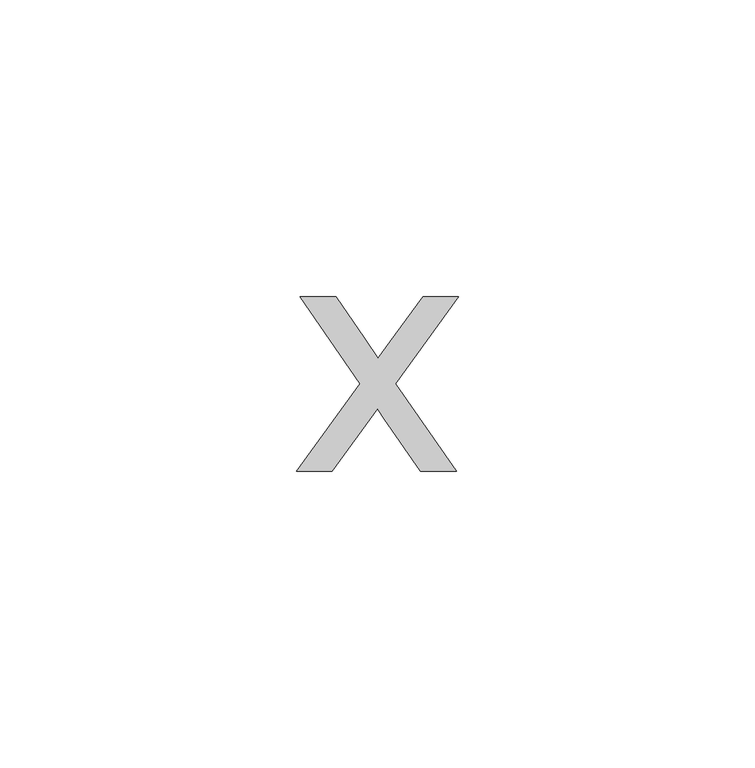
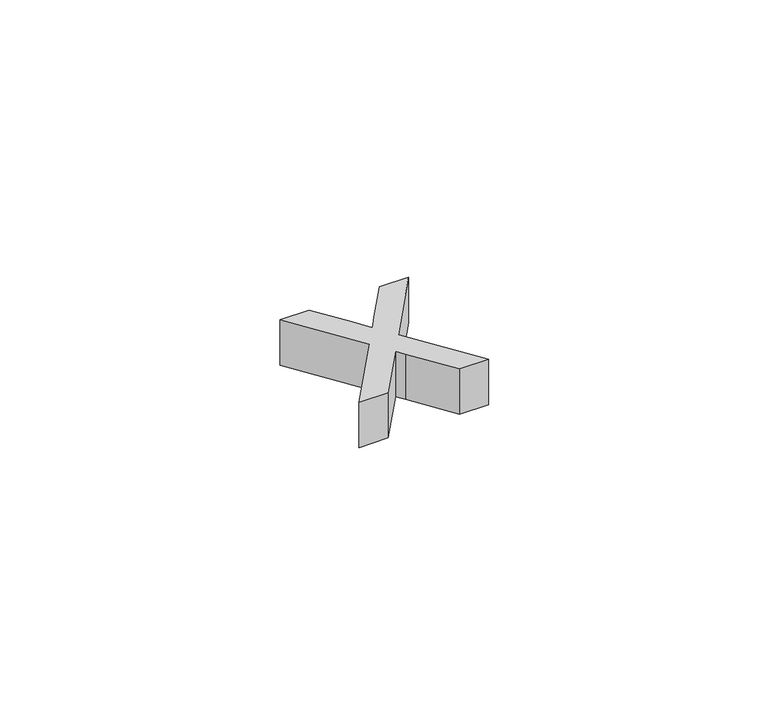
"""IFC4 building model written with IfcOpenShell, lengths in millimetres: pipe fitting geometry, PIF_HDPE weld_Akatherm : ringseal or non-welded."""

from ifc_helpers import new_model, si_unit, frame, origin, place, context, project, spatial, polyline, outline, extrude, source, transform, mapped, element, save


def pipe_fitting_5bbf7105(model_context):
    return source(origin(), model_context, "Body", "SweptSolid", [
        extrude(outline(polyline([(30.9355442, -90.0), (41.6678883, -75.166998), (31.5633962, -60.4909589), (37.6064711, -60.4909589), (42.4821338, -67.5542932), (44.7580971, -70.8897566), (46.7299446, -68.1625248), (52.2825102, -60.4909589), (58.3255851, -60.4909589), (47.7109632, -75.166998), (57.9331776, -90.0), (51.8901027, -90.0), (45.7391157, -81.0825404), (44.6109443, -79.4540495), (36.9786192, -90.0), (30.9355442, -90.0)])), frame((0.0, 0.0, -15.0), z_axis=(0.0, 0.0, 1.0), x_axis=(1.0, 0.0, 0.0)), (0.0, 0.0, 1.0), 10.0),
    ])


if __name__ == "__main__":
    model = new_model("IFC4")
    model_context = context("Model", 3, world=origin())
    ifc_project = project(units=[si_unit("LENGTHUNIT", "METRE", prefix="MILLI")], contexts=[model_context])
    site = spatial("IfcSite", under=ifc_project)
    building = spatial("IfcBuilding", under=site)
    placement = place(None, origin())
    pipe_fitting_shape = pipe_fitting_5bbf7105(model_context)
    element("IfcPipeFitting", 1, ObjectType="PIF_HDPE weld_Akatherm : ringseal or non-welded", at=placement, inside=building, context=model_context, shape_type="MappedRepresentation", body=[
        mapped(pipe_fitting_shape, transform((0.0, 0.0, 0.0), x_axis=(1.0, 0.0, 0.0), y_axis=(0.0, 1.0, 0.0), z_axis=(0.0, 0.0, 1.0))),
    ])
    save(model, "model.ifc")
